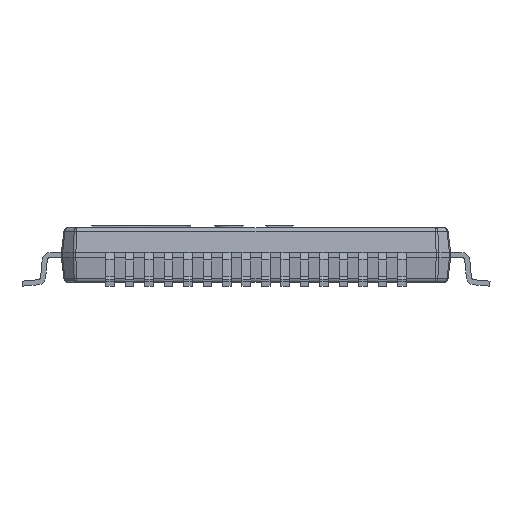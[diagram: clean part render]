
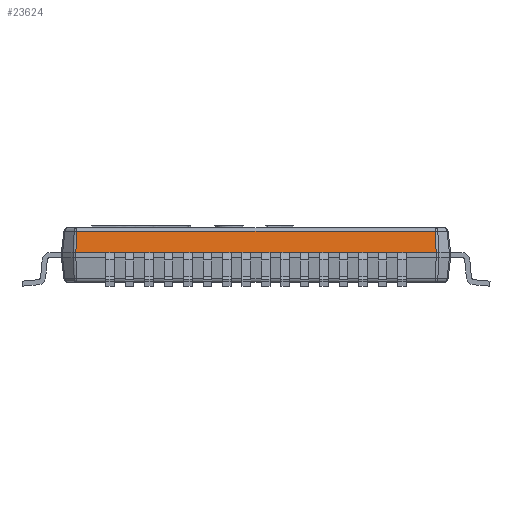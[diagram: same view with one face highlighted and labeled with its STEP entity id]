
A CAD part, left-side view. The second image highlights one B-rep face of the part: STEP entity #23624.
In plain terms, the highlighted planar face has unit normal (-0.993, 0, 0.122) as drawn and (-0.993, 0.122, 0) by its records, which use the part's own axes.
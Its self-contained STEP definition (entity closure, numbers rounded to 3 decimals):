
#3697=FACE_OUTER_BOUND('',#4996,.T.);
#4996=EDGE_LOOP('',(#21598,#21599,#21600,#21601));
#7032=LINE('',#45475,#9088);
#7033=LINE('',#45478,#9089);
#7034=LINE('',#45480,#9090);
#7035=LINE('',#45481,#9091);
#9088=VECTOR('',#27393,0.552);
#9089=VECTOR('',#27396,9.202);
#9090=VECTOR('',#27397,9.257);
#9091=VECTOR('',#27398,0.552);
#11406=VERTEX_POINT('',#45469);
#11407=VERTEX_POINT('',#45473);
#11408=VERTEX_POINT('',#45477);
#11409=VERTEX_POINT('',#45479);
#14810=EDGE_CURVE('',#11406,#11407,#7032,.T.);
#14811=EDGE_CURVE('',#11406,#11408,#7033,.T.);
#14812=EDGE_CURVE('',#11409,#11407,#7034,.T.);
#14813=EDGE_CURVE('',#11409,#11408,#7035,.T.);
#21598=ORIENTED_EDGE('',*,*,#14811,.F.);
#21599=ORIENTED_EDGE('',*,*,#14810,.T.);
#21600=ORIENTED_EDGE('',*,*,#14812,.F.);
#21601=ORIENTED_EDGE('',*,*,#14813,.T.);
#22433=PLANE('',#24234);
#23624=ADVANCED_FACE('',(#3697),#22433,.T.);
#24234=AXIS2_PLACEMENT_3D('',#45476,#27394,#27395);
#27393=DIRECTION('',(-0.122,-0.991,-0.05));
#27394=DIRECTION('center_axis',(-0.993,0.122,0.));
#27395=DIRECTION('ref_axis',(0.,0.,1.));
#27396=DIRECTION('',(0.,0.,1.));
#27397=DIRECTION('',(0.,0.,-1.));
#27398=DIRECTION('',(0.122,0.991,-0.05));
#45469=CARTESIAN_POINT('',(-4.933,0.547,-4.601));
#45473=CARTESIAN_POINT('',(-5.,0.,-4.629));
#45475=CARTESIAN_POINT('',(-4.933,0.547,-4.601));
#45476=CARTESIAN_POINT('Origin',(-5.,0.,-5.));
#45477=CARTESIAN_POINT('',(-4.933,0.547,4.601));
#45478=CARTESIAN_POINT('',(-4.933,0.547,-4.601));
#45479=CARTESIAN_POINT('',(-5.,0.,4.629));
#45480=CARTESIAN_POINT('',(-5.,0.,4.629));
#45481=CARTESIAN_POINT('',(-5.,0.,4.629));
